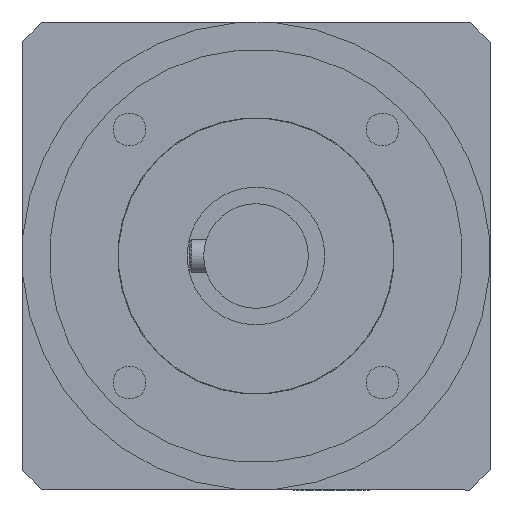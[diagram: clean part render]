
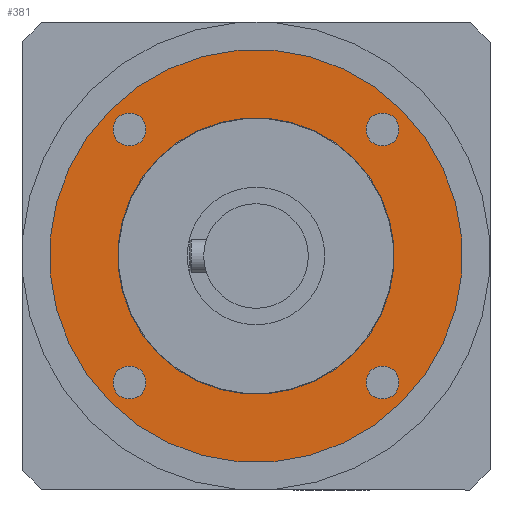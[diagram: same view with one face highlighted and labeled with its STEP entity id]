
A CAD part, left-side view. The second image highlights one B-rep face of the part: STEP entity #381.
In plain terms, the highlighted planar face has unit normal (-1, 0, 0).
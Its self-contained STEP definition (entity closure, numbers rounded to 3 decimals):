
#381=ADVANCED_FACE('',(#570,#571,#572,#573,#574,#575),#478,.T.);
#478=PLANE('',#1647);
#570=FACE_BOUND('',#719,.T.);
#571=FACE_BOUND('',#720,.T.);
#572=FACE_BOUND('',#721,.T.);
#573=FACE_BOUND('',#722,.T.);
#574=FACE_BOUND('',#723,.T.);
#575=FACE_BOUND('',#724,.T.);
#719=EDGE_LOOP('',(#947));
#720=EDGE_LOOP('',(#948));
#721=EDGE_LOOP('',(#949));
#722=EDGE_LOOP('',(#950));
#723=EDGE_LOOP('',(#951));
#724=EDGE_LOOP('',(#952));
#947=ORIENTED_EDGE('',*,*,#1357,.T.);
#948=ORIENTED_EDGE('',*,*,#1358,.T.);
#949=ORIENTED_EDGE('',*,*,#1359,.T.);
#950=ORIENTED_EDGE('',*,*,#1360,.T.);
#951=ORIENTED_EDGE('',*,*,#1356,.T.);
#952=ORIENTED_EDGE('',*,*,#1361,.T.);
#1219=VERTEX_POINT('',#2430);
#1220=VERTEX_POINT('',#2433);
#1221=VERTEX_POINT('',#2435);
#1222=VERTEX_POINT('',#2437);
#1223=VERTEX_POINT('',#2439);
#1224=VERTEX_POINT('',#2441);
#1356=EDGE_CURVE('',#1219,#1219,#1505,.T.);
#1357=EDGE_CURVE('',#1220,#1220,#1506,.T.);
#1358=EDGE_CURVE('',#1221,#1221,#1507,.T.);
#1359=EDGE_CURVE('',#1222,#1222,#1508,.T.);
#1360=EDGE_CURVE('',#1223,#1223,#1509,.T.);
#1361=EDGE_CURVE('',#1224,#1224,#1510,.T.);
#1505=CIRCLE('',#1640,37.5);
#1506=CIRCLE('',#1642,3.);
#1507=CIRCLE('',#1643,3.);
#1508=CIRCLE('',#1644,3.);
#1509=CIRCLE('',#1645,3.);
#1510=CIRCLE('',#1646,25.1);
#1640=AXIS2_PLACEMENT_3D('',#2429,#1945,#1946);
#1642=AXIS2_PLACEMENT_3D('',#2432,#1949,#1950);
#1643=AXIS2_PLACEMENT_3D('',#2434,#1951,#1952);
#1644=AXIS2_PLACEMENT_3D('',#2436,#1953,#1954);
#1645=AXIS2_PLACEMENT_3D('',#2438,#1955,#1956);
#1646=AXIS2_PLACEMENT_3D('',#2440,#1957,#1958);
#1647=AXIS2_PLACEMENT_3D('',#2442,#1959,#1960);
#1945=DIRECTION('',(-1.,0.,0.));
#1946=DIRECTION('',(0.,0.707,0.707));
#1949=DIRECTION('',(1.,0.,0.));
#1950=DIRECTION('',(0.,0.707,-0.707));
#1951=DIRECTION('',(1.,0.,0.));
#1952=DIRECTION('',(0.,0.707,0.707));
#1953=DIRECTION('',(1.,0.,0.));
#1954=DIRECTION('',(0.,-0.707,0.707));
#1955=DIRECTION('',(1.,0.,0.));
#1956=DIRECTION('',(0.,-0.707,-0.707));
#1957=DIRECTION('',(1.,0.,0.));
#1958=DIRECTION('',(0.,-0.707,-0.707));
#1959=DIRECTION('',(-1.,0.,0.));
#1960=DIRECTION('',(0.,0.707,0.707));
#2429=CARTESIAN_POINT('',(-108.,0.,0.));
#2430=CARTESIAN_POINT('',(-108.,26.517,26.517));
#2432=CARTESIAN_POINT('',(-108.,-22.981,-22.981));
#2433=CARTESIAN_POINT('',(-108.,-20.86,-25.102));
#2434=CARTESIAN_POINT('',(-108.,22.981,-22.981));
#2435=CARTESIAN_POINT('',(-108.,25.102,-20.86));
#2436=CARTESIAN_POINT('',(-108.,22.981,22.981));
#2437=CARTESIAN_POINT('',(-108.,20.86,25.102));
#2438=CARTESIAN_POINT('',(-108.,-22.981,22.981));
#2439=CARTESIAN_POINT('',(-108.,-25.102,20.86));
#2440=CARTESIAN_POINT('',(-108.,0.,0.));
#2441=CARTESIAN_POINT('',(-108.,-17.748,-17.748));
#2442=CARTESIAN_POINT('',(-108.,0.,0.));
